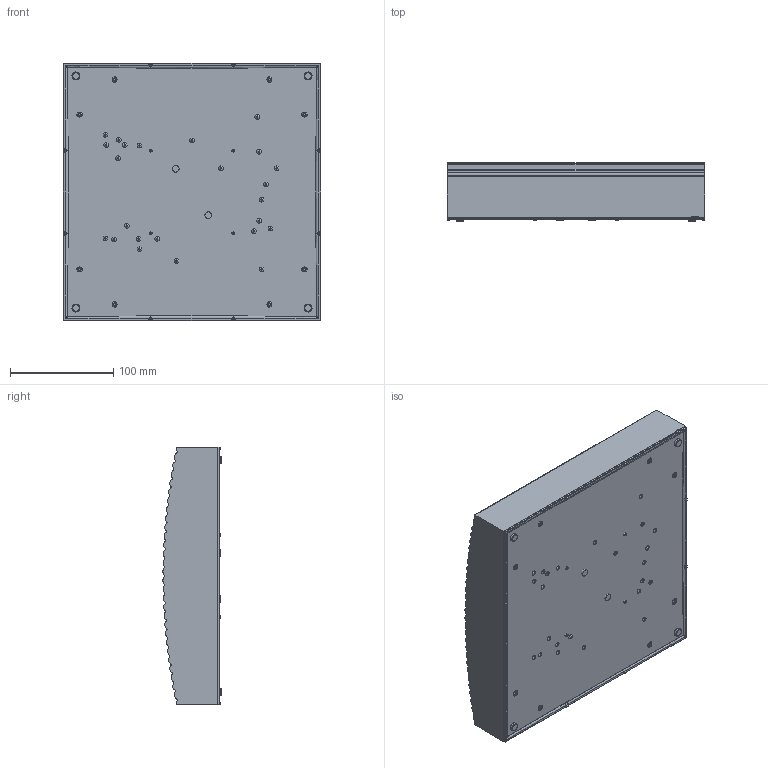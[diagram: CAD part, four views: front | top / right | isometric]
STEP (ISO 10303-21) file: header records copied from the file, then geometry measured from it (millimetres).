
FILE_DESCRIPTION((''),'2;1');
FILE_NAME('ART-250_SW0001','2026-05-22T09:50:46',('Piccioli'),(''),'CREO PARAMETRIC BY PTC INC, 2025010','CREO PARAMETRIC BY PTC INC, 2025010','');
FILE_SCHEMA(('CONFIG_CONTROL_DESIGN'));
Length unit declared in the file: millimetre
Products named in the file (1): ART-250_SW0001
Bounding box: 250 x 56.48 x 250 mm (x, y, z)
Surface area: 244141.8 mm2 (no closed solid volume)
Topology: 0 solids, 46 shells, 591 faces, 1464 edges, 904 vertices
Faces by surface type: cylinder 197, bspline 174, plane 110, sphere 64, cone 26, torus 20
Entity records: 27474 total; most frequent: CARTESIAN_POINT 14842, ORIENTED_EDGE 2608, DIRECTION 2494, EDGE_CURVE 1464, AXIS2_PLACEMENT_3D 1033, VERTEX_POINT 904, CIRCLE 616, EDGE_LOOP 591
